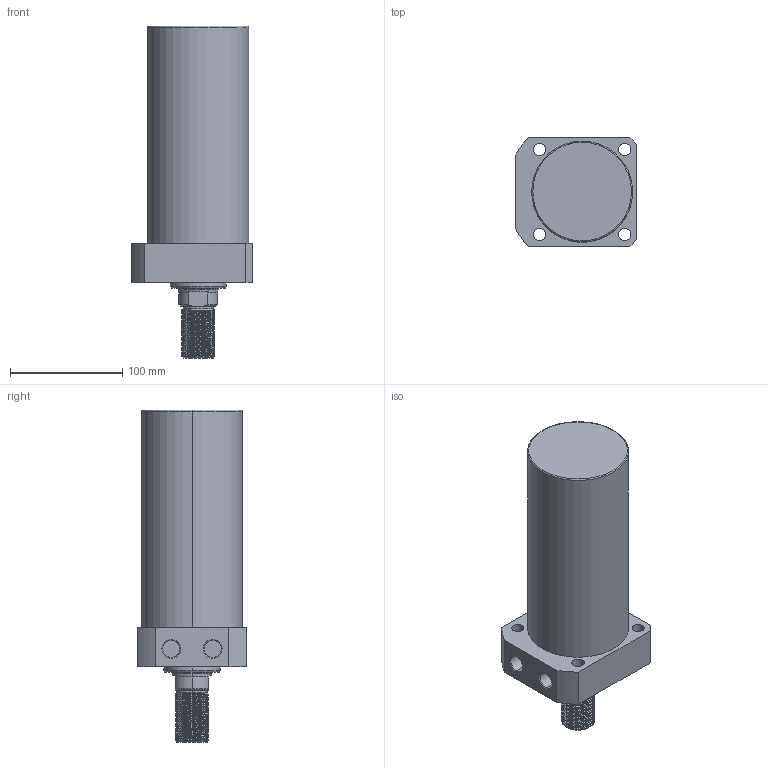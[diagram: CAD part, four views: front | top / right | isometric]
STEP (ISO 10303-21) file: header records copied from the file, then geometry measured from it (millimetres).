
FILE_DESCRIPTION (( 'STEP AP214' ), '1' );
FILE_NAME ('CLLR-090CT-150.STEP', '2020-01-10T02:48:31', ( 'Windows' ), ( 'Microsoft' ), 'SwSTEP 2.0', 'SolidWorks 2015', '' );
FILE_SCHEMA (( 'AUTOMOTIVE_DESIGN' ));
Length unit declared in the file: millimetre
Products named in the file (1): CLLR-090CT-150
Bounding box: 108 x 97 x 296 mm (x, y, z)
Volume: 1627528.9 mm3; surface area: 104375.1 mm2
Topology: 1 solids, 1 shells, 125 faces, 331 edges, 216 vertices
Faces by surface type: cylinder 85, plane 20, cone 16, torus 2, bspline 2
Entity records: 7311 total; most frequent: CARTESIAN_POINT 4415, ORIENTED_EDGE 662, DIRECTION 530, EDGE_CURVE 331, VERTEX_POINT 216, AXIS2_PLACEMENT_3D 204, EDGE_LOOP 141, FACE_OUTER_BOUND 125
